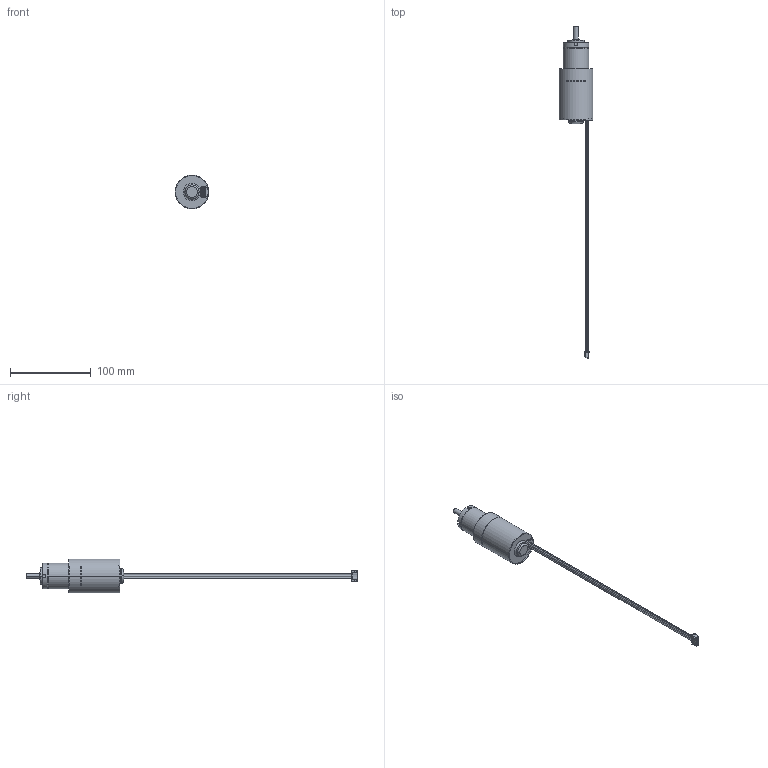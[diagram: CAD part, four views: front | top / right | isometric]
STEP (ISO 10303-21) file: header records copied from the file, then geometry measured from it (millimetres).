
FILE_DESCRIPTION((''),'2;1');
FILE_NAME('BB_L_ASM','2024-01-16T15:10:36',('Danny.Guo'),(''),'CREO PARAMETRIC BY PTC INC, 2020414','CREO PARAMETRIC BY PTC INC, 2020414','');
FILE_SCHEMA(('CONFIG_CONTROL_DESIGN'));
Length unit declared in the file: millimetre
Products named in the file (3): BB_L; XHP-5_1; BB_L_ASM
Assembly tree (2 placements, depth 2):
  BB_L_ASM
    BB_L
    XHP-5_1
Bounding box: 42 x 410.98 x 42 mm (x, y, z)
Volume: 119719.6 mm3; surface area: 27889.9 mm2
Topology: 2 solids, 6 shells, 286 faces, 704 edges, 458 vertices
Faces by surface type: plane 165, cylinder 88, cone 30, torus 3
Entity records: 8548 total; most frequent: CARTESIAN_POINT 1530, DIRECTION 1496, ORIENTED_EDGE 1376, EDGE_CURVE 696, AXIS2_PLACEMENT_3D 521, VERTEX_POINT 458, VECTOR 454, LINE 454
